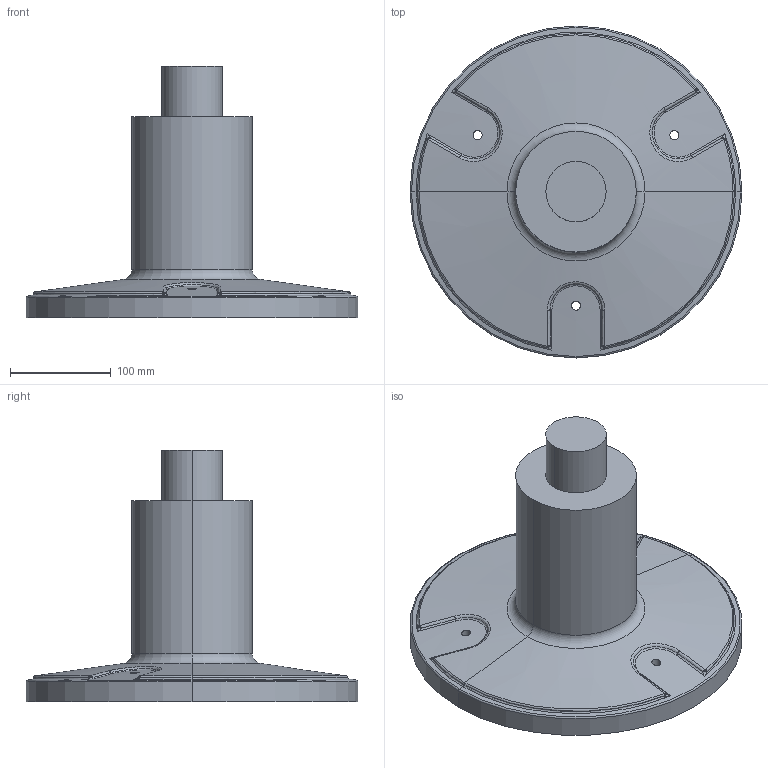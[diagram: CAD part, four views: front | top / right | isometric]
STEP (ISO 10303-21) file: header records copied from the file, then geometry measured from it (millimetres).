
FILE_DESCRIPTION (( 'STEP AP214' ), '1' );
FILE_NAME ('Base.STEP', '2019-03-22T05:08:58', ( '' ), ( '' ), 'SwSTEP 2.0', 'SolidWorks 2018', '' );
FILE_SCHEMA (( 'AUTOMOTIVE_DESIGN' ));
Length unit declared in the file: millimetre
Products named in the file (2): Scorbot_ER9-0_Predeterminado; Base
Assembly tree (1 placements, depth 2):
  Base
    Scorbot_ER9-0_Predeterminado
Bounding box: 330 x 330 x 250 mm (x, y, z)
Volume: 4624828.8 mm3; surface area: 266719.6 mm2
Topology: 1 solids, 1 shells, 83 faces, 198 edges, 106 vertices
Faces by surface type: bspline 48, cylinder 16, torus 12, cone 4, plane 3
Entity records: 10566 total; most frequent: CARTESIAN_POINT 8963, ORIENTED_EDGE 372, DIRECTION 259, EDGE_CURVE 186, AXIS2_PLACEMENT_3D 121, VERTEX_POINT 106, EDGE_LOOP 90, B_SPLINE_CURVE_WITH_KNOTS 87
